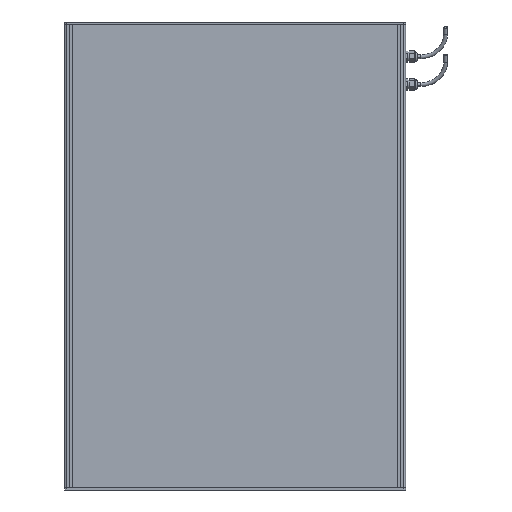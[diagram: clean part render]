
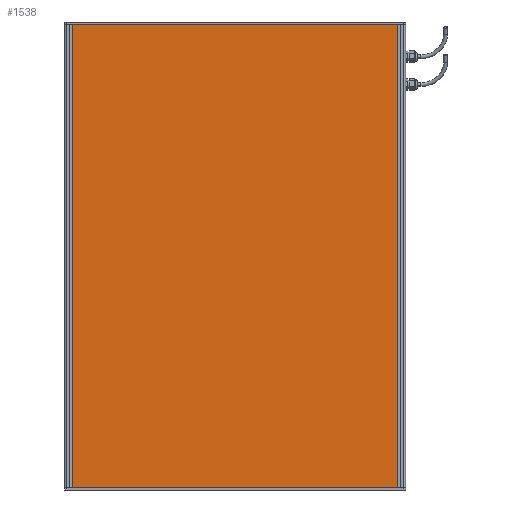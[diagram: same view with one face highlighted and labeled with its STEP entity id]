
A CAD part, front view. The second image highlights one B-rep face of the part: STEP entity #1538.
In plain terms, the highlighted planar face has unit normal (0, -1, 0) as drawn and (0, 0, 1) by its records, which use the part's own axes.
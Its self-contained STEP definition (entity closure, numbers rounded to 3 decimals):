
#253 = CARTESIAN_POINT ( 'NONE',  ( -9., 0., 0. ) ) ;
#338 = VECTOR ( 'NONE', #14194, 1000. ) ;
#562 = VERTEX_POINT ( 'NONE', #590 ) ;
#590 = CARTESIAN_POINT ( 'NONE',  ( -709., 0., 0. ) ) ;
#616 = DIRECTION ( 'NONE',  ( -1., 0., 0. ) ) ;
#637 = ORIENTED_EDGE ( 'NONE', *, *, #3744, .T. ) ;
#663 = VECTOR ( 'NONE', #7194, 1000. ) ;
#814 = VERTEX_POINT ( 'NONE', #253 ) ;
#826 = VECTOR ( 'NONE', #7936, 1000. ) ;
#1538 = ADVANCED_FACE ( 'NONE', ( #3159 ), #6887, .F. ) ;
#1543 = CARTESIAN_POINT ( 'NONE',  ( -9., -1000., 0. ) ) ;
#1907 = CARTESIAN_POINT ( 'NONE',  ( -709., 0., 0. ) ) ;
#2690 = LINE ( 'NONE', #1543, #2833 ) ;
#2833 = VECTOR ( 'NONE', #13881, 1000. ) ;
#3159 = FACE_OUTER_BOUND ( 'NONE', #15455, .T. ) ;
#3667 = ORIENTED_EDGE ( 'NONE', *, *, #10715, .T. ) ;
#3744 = EDGE_CURVE ( 'NONE', #814, #562, #9208, .T. ) ;
#3991 = ORIENTED_EDGE ( 'NONE', *, *, #15056, .T. ) ;
#4005 = CARTESIAN_POINT ( 'NONE',  ( -9., 0., 0. ) ) ;
#4036 = EDGE_CURVE ( 'NONE', #7379, #814, #6865, .T. ) ;
#4328 = DIRECTION ( 'NONE',  ( 0., 0., -1. ) ) ;
#5119 = ORIENTED_EDGE ( 'NONE', *, *, #4036, .T. ) ;
#6865 = LINE ( 'NONE', #13160, #826 ) ;
#6887 = PLANE ( 'NONE',  #12421 ) ;
#7194 = DIRECTION ( 'NONE',  ( 0., -1., 0. ) ) ;
#7379 = VERTEX_POINT ( 'NONE', #16150 ) ;
#7936 = DIRECTION ( 'NONE',  ( 0., 1., 0. ) ) ;
#9208 = LINE ( 'NONE', #4005, #338 ) ;
#10715 = EDGE_CURVE ( 'NONE', #562, #12131, #10957, .T. ) ;
#10957 = LINE ( 'NONE', #1907, #663 ) ;
#12131 = VERTEX_POINT ( 'NONE', #14042 ) ;
#12421 = AXIS2_PLACEMENT_3D ( 'NONE', #15834, #4328, #616 ) ;
#13160 = CARTESIAN_POINT ( 'NONE',  ( -9., 0., 0. ) ) ;
#13881 = DIRECTION ( 'NONE',  ( 1., 0., 0. ) ) ;
#14042 = CARTESIAN_POINT ( 'NONE',  ( -709., -1000., 0. ) ) ;
#14194 = DIRECTION ( 'NONE',  ( -1., 0., 0. ) ) ;
#15056 = EDGE_CURVE ( 'NONE', #12131, #7379, #2690, .T. ) ;
#15455 = EDGE_LOOP ( 'NONE', ( #5119, #637, #3667, #3991 ) ) ;
#15834 = CARTESIAN_POINT ( 'NONE',  ( 0., 0., 0. ) ) ;
#16150 = CARTESIAN_POINT ( 'NONE',  ( -9., -1000., 0. ) ) ;
